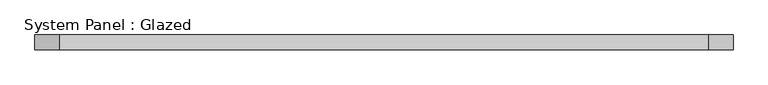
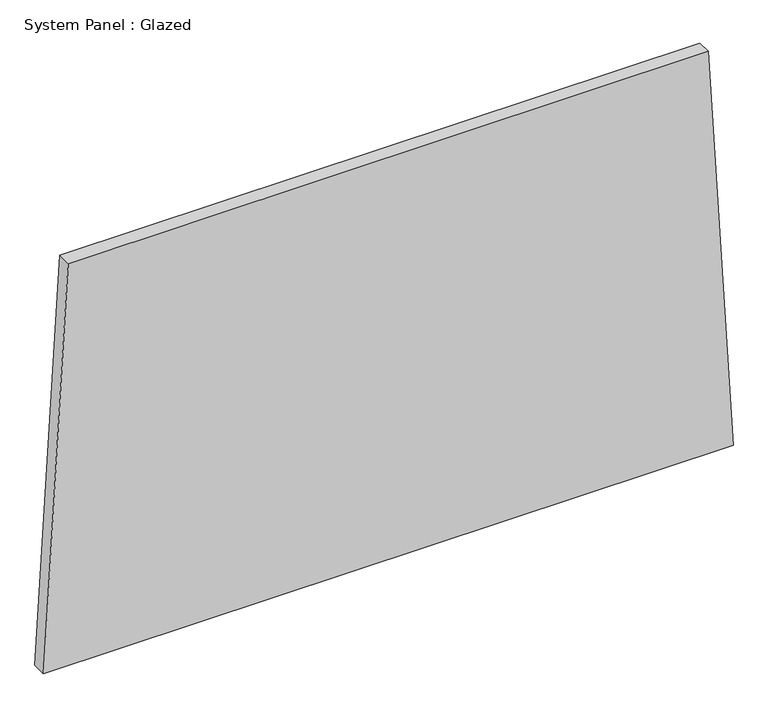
"""IFC4 building model written with IfcOpenShell, lengths in millimetres: plate geometry, System Panel : Glazed."""

import ifcopenshell
import ifcopenshell.guid

model = None  # the IFC model being written
_history = None  # IfcOwnerHistory: only IFC2X3 demands one
_inside = {}  # id of a spatial element -> (the spatial element, [elements in it])
_under = {}  # id of a project, library or spatial element -> (it, [spatial elements below it])
_declared = {}  # id of a project -> (the project, [libraries it declares])
_typed = {}  # id of a type object -> (the type object, [elements of that type])
_made_of = {}  # id of a material, layer set ... -> (it, [elements and type objects made of it])


def new_model(schema):
    """Start an empty IFC model of exactly this schema.

    Asked for "IFC4X3", IfcOpenShell would pick the latest addendum, in which some entities
    have other attributes; the version numbers below select the first issue.
    IFC2X3 requires an IfcOwnerHistory on every rooted entity: one is made here for all.
    """
    global model, _history
    if schema == "IFC4X3":
        model = ifcopenshell.file(schema_version=(4, 3, 0, 0))
    else:
        model = ifcopenshell.file(schema=schema)
    _inside.clear()
    _under.clear()
    _declared.clear()
    _typed.clear()
    _made_of.clear()
    _history = None
    if model.schema == "IFC2X3":
        org = make("IfcOrganization", Name="unknown")
        user = make(
            "IfcPersonAndOrganization",
            ThePerson=make("IfcPerson", FamilyName="unknown"),
            TheOrganization=org,
        )
        app = make(
            "IfcApplication",
            ApplicationDeveloper=org,
            Version="unknown",
            ApplicationFullName="unknown",
            ApplicationIdentifier="unknown",
        )
        _history = make(
            "IfcOwnerHistory",
            OwningUser=user,
            OwningApplication=app,
            ChangeAction="ADDED",
            CreationDate=0,
        )
    return model


def make(cls, **values):
    """One entity of the class cls with the attributes given. An attribute that is None is left unset."""
    return model.create_entity(
        cls, **{name: value for name, value in values.items() if value is not None}
    )


def rooted(cls, **values):
    """An entity with a GlobalId (a new one), such as an element, a storey or a relation."""
    return make(cls, GlobalId=ifcopenshell.guid.new(), OwnerHistory=_history, **values)


def si_unit(unit_type, name, prefix=None):
    """IfcSIUnit, for example si_unit("LENGTHUNIT", "METRE", prefix="MILLI")."""
    return make("IfcSIUnit", UnitType=unit_type, Prefix=prefix, Name=name)


def assignment(units):
    """IfcUnitAssignment: the units of a project."""
    return None if units is None else make("IfcUnitAssignment", Units=units)


def point(xyz):
    """IfcCartesianPoint."""
    return None if xyz is None else make("IfcCartesianPoint", Coordinates=xyz)


def direction(xyz):
    """IfcDirection."""
    return None if xyz is None else make("IfcDirection", DirectionRatios=xyz)


def frame(location, z_axis=None, x_axis=None):
    """IfcAxis2Placement3D, a coordinate frame: its origin and axes. An axis left out is left unset."""
    return make(
        "IfcAxis2Placement3D",
        Location=point(location),
        Axis=direction(z_axis),
        RefDirection=direction(x_axis),
    )


def origin():
    """The frame at (0, 0, 0) with its axes left unset."""
    return frame((0.0, 0.0, 0.0))


def place(relative_to, where):
    """IfcLocalPlacement: puts the frame where relative to a parent placement (None: the world)."""
    return make(
        "IfcLocalPlacement", PlacementRelTo=relative_to, RelativePlacement=where
    )


def context(
    kind, dimensions, precision=None, world=None, true_north=None, identifier=None
):
    """IfcGeometricRepresentationContext, for example the 3D "Model" context."""
    return make(
        "IfcGeometricRepresentationContext",
        ContextIdentifier=identifier,
        ContextType=kind,
        CoordinateSpaceDimension=dimensions,
        Precision=precision,
        WorldCoordinateSystem=world,
        TrueNorth=true_north,
    )


def project(units=None, contexts=None):
    """IfcProject with its units and contexts."""
    return rooted(
        "IfcProject",
        Name="project",
        RepresentationContexts=contexts,
        UnitsInContext=assignment(units),
    )


def spatial(cls, under=None, at=None, **own):
    """A site, building, storey or space (cls), placed at a placement, below another one or the project."""
    s = rooted(cls, ObjectPlacement=at, **own)
    if under is not None:
        _under.setdefault(under.id(), (under, []))[1].append(s)
    return s


def polyline(points):
    """IfcPolyline through the points."""
    return make("IfcPolyline", Points=[point(p) for p in points])


def outline(outer, holes=None, kind="AREA"):
    """IfcArbitraryClosedProfileDef: a profile drawn as a closed curve; with holes, ...WithVoids."""
    if holes is None:
        return make("IfcArbitraryClosedProfileDef", ProfileType=kind, OuterCurve=outer)
    return make(
        "IfcArbitraryProfileDefWithVoids",
        ProfileType=kind,
        OuterCurve=outer,
        InnerCurves=holes,
    )


def extrude(swept, where, along, depth):
    """IfcExtrudedAreaSolid: the profile swept, set in the frame where, extruded along a direction by depth."""
    return make(
        "IfcExtrudedAreaSolid",
        SweptArea=swept,
        Position=where,
        ExtrudedDirection=direction(along),
        Depth=depth,
    )


def shape(context_of_items, identifier, shape_type, items):
    """IfcShapeRepresentation: the items that make up one representation, for example the "Body"."""
    return make(
        "IfcShapeRepresentation",
        ContextOfItems=context_of_items,
        RepresentationIdentifier=identifier,
        RepresentationType=shape_type,
        Items=items,
    )


def source(mapping_origin, context_of_items, identifier, shape_type, items):
    """IfcRepresentationMap: a shape defined once, which mapped items show again and again."""
    return make(
        "IfcRepresentationMap",
        MappingOrigin=mapping_origin,
        MappedRepresentation=shape(context_of_items, identifier, shape_type, items),
    )


def transform(
    local_origin,
    x_axis=None,
    y_axis=None,
    z_axis=None,
    scale=None,
    scale2=None,
    scale3=None,
    uniform=True,
):
    """IfcCartesianTransformationOperator3D, or its non-uniform kind. x_axis, y_axis, z_axis: its Axis1, 2, 3."""
    if uniform:
        return make(
            "IfcCartesianTransformationOperator3D",
            Axis1=direction(x_axis),
            Axis2=direction(y_axis),
            LocalOrigin=point(local_origin),
            Scale=scale,
            Axis3=direction(z_axis),
        )
    return make(
        "IfcCartesianTransformationOperator3DnonUniform",
        Axis1=direction(x_axis),
        Axis2=direction(y_axis),
        LocalOrigin=point(local_origin),
        Scale=scale,
        Axis3=direction(z_axis),
        Scale2=scale2,
        Scale3=scale3,
    )


def mapped(mapping_source, mapping_target):
    """IfcMappedItem: shows the shape of a source again, moved by a transform."""
    return make(
        "IfcMappedItem", MappingSource=mapping_source, MappingTarget=mapping_target
    )


def made_of(thing, what):
    """Note that an element or type object is made of a material, layer set ...; save() writes the relation."""
    if what is not None:
        _made_of.setdefault(what.id(), (what, []))[1].append(thing)
    return thing


def element(
    cls,
    number,
    at=None,
    inside=None,
    cuts=None,
    type_object=None,
    material=None,
    context=None,
    identifier="Body",
    shape_type=None,
    held_by="IfcProductDefinitionShape",
    body=None,
    shapes=None,
    **own,
):
    """One element of the class cls, such as IfcWall. Its Tag is "e" and its number.

    at: its placement. inside: the storey or other place that contains it. cuts: it is an
    opening in that element (IfcRelVoidsElement). A single representation is given by context,
    identifier, shape_type and body (its items); several are given by shapes. held_by: the class
    of the entity that holds the representations. save() writes the other relations.
    """
    e = rooted(cls, Tag="e%d" % number, ObjectPlacement=at, **own)
    if body is not None:
        shapes = [shape(context, identifier, shape_type, body)]
    if shapes is not None:
        e.Representation = make(held_by, Representations=shapes)
    if inside is not None:
        _inside.setdefault(inside.id(), (inside, []))[1].append(e)
    if cuts is not None:
        rooted(
            "IfcRelVoidsElement", RelatingBuildingElement=cuts, RelatedOpeningElement=e
        )
    if type_object is not None:
        _typed.setdefault(type_object.id(), (type_object, []))[1].append(e)
    return made_of(e, material)


def aggregate(whole, parts):
    """IfcRelAggregates: a whole, such as a stair, and the parts it consists of."""
    return rooted("IfcRelAggregates", RelatingObject=whole, RelatedObjects=parts)


def save(model, path):
    """Write the relations noted so far, then the file.

    IfcRelAggregates (storeys below a building ...), IfcRelContainedInSpatialStructure (elements
    in a storey), IfcRelDefinesByType, IfcRelAssociatesMaterial and IfcRelDeclares: one each for
    every whole, place, type object, material and project.
    """
    for whole, parts in _under.values():
        aggregate(whole, parts)
    for where, things in _inside.values():
        rooted(
            "IfcRelContainedInSpatialStructure",
            RelatedElements=things,
            RelatingStructure=where,
        )
    for kind, things in _typed.values():
        rooted("IfcRelDefinesByType", RelatedObjects=things, RelatingType=kind)
    for what, things in _made_of.values():
        rooted("IfcRelAssociatesMaterial", RelatedObjects=things, RelatingMaterial=what)
    for by, libraries in _declared.values():
        rooted("IfcRelDeclares", RelatingContext=by, RelatedDefinitions=libraries)
    model.write(path)


def system_panel_glazed_231bbcbc(model_context):
    return source(origin(), model_context, "Body", "SweptSolid", [
        extrude(outline(polyline([(0.0, -596.4454195), (0.0, 596.4454195), (735.326068, 553.8722799), (735.326068, -553.8722799), (0.0, -596.4454195)])), frame((0.0, -44.45, 0.0), z_axis=(0.0, 1.0, 0.0), x_axis=(0.0, 0.0, 1.0)), (0.0, 0.0, 1.0), 25.4),
    ])


if __name__ == "__main__":
    model = new_model("IFC4")
    model_context = context("Model", 3, world=origin())
    ifc_project = project(units=[si_unit("LENGTHUNIT", "METRE", prefix="MILLI")], contexts=[model_context])
    site = spatial("IfcSite", under=ifc_project)
    building = spatial("IfcBuilding", under=site)
    placement = place(None, origin())
    system_panel_glazed_shape = system_panel_glazed_231bbcbc(model_context)
    element("IfcPlate", 1, ObjectType="System Panel : Glazed", at=placement, inside=building, context=model_context, shape_type="MappedRepresentation", body=[
        mapped(system_panel_glazed_shape, transform((0.0, 0.0, 0.0), x_axis=(1.0, 0.0, 0.0), y_axis=(0.0, 1.0, 0.0), z_axis=(0.0, 0.0, 1.0))),
    ])
    save(model, "model.ifc")
